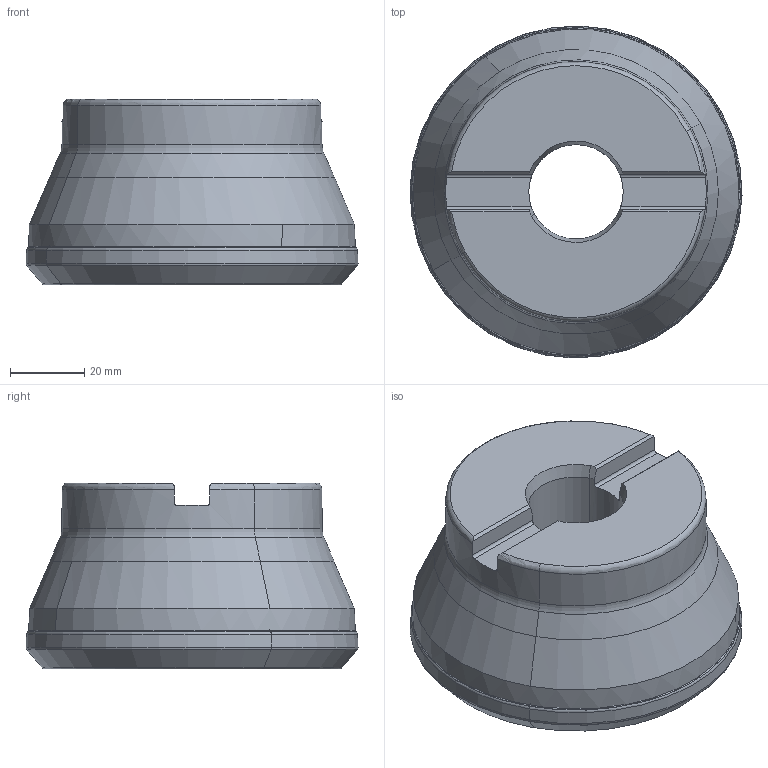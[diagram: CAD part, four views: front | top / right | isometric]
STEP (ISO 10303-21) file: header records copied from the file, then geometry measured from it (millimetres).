
FILE_DESCRIPTION(('CATIA V5 STEP','CAx-IF Rec.Pracs.--- Model Styling and Organization---1.2---2011-12-15'),'2;1');
FILE_NAME('N:\data\isr\design\special1\users\NATALY_B\Tal\NPA\3106855\IQ845 FSYD080-06-25.4-R07-L.stp','2016-06-06T04:43:19+00:00',('none'),('none'),'CATIA Version 5 Release 21 SP 5 (IN-10)','CATIA V5 STEP AP214','none');
FILE_SCHEMA(('AUTOMOTIVE_DESIGN { 1 0 10303 214 1 1 1 1 }'));
Length unit declared in the file: millimetre
Products named in the file (1): IQ845 FSYD080-06-25.4-R07
Bounding box: 89.26 x 89.26 x 50 mm (x, y, z)
Volume: 222880.9 mm3; surface area: 35627 mm2
Topology: 2 solids, 2 shells, 108 faces, 268 edges, 163 vertices
Faces by surface type: revolution 64, plane 14, torus 12, cylinder 10, cone 8
Entity records: 3854 total; most frequent: CARTESIAN_POINT 1609, ORIENTED_EDGE 488, DIRECTION 278, EDGE_CURVE 244, B_SPLINE_CURVE_WITH_KNOTS 174, AXIS2_PLACEMENT_3D 145, VERTEX_POINT 138, CIRCLE 116
